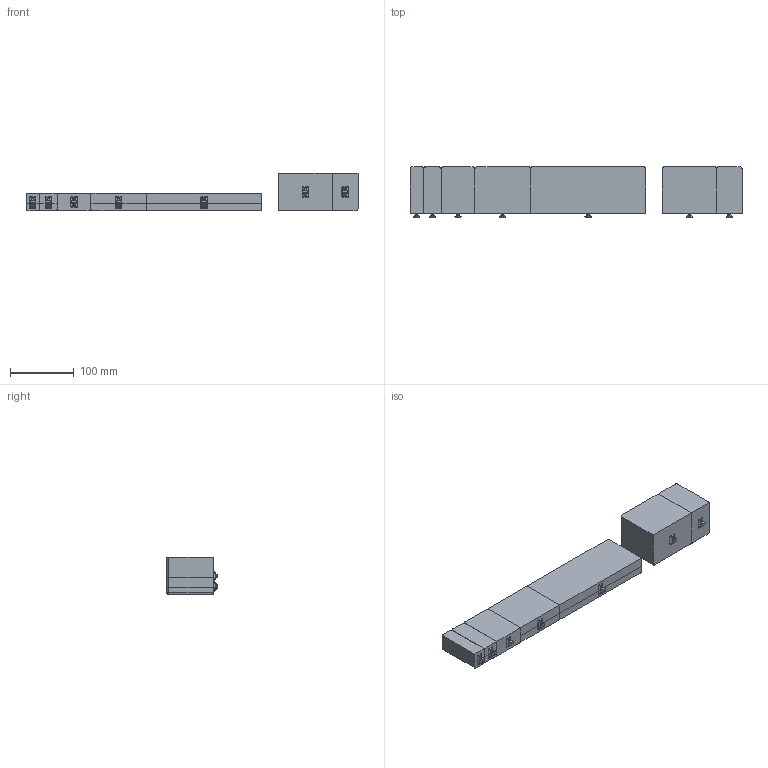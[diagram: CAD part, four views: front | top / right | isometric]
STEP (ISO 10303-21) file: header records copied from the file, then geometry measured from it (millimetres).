
FILE_DESCRIPTION(/* description */ ('STEP AP242','CAx-IF Rec.Pracs.---Representation and Presentation of Product Manufacturing Information (PMI)---4.0---2014-10-13','CAx-IF Rec.Pracs.---3D Tessellated Geometry---0.4---2014-09-14','2;1'),/* implementation_level */ '2;1');
FILE_NAME(/* name */ '6456463ca5ed027e9a81caa4',/* time_stamp */ '2023-05-06T12:21:18Z',/* author */ (''),/* organization */ (''),/* preprocessor_version */ 'ST-DEVELOPER v19.4',/* originating_system */ ' ',/* authorisation */ ' ');
FILE_SCHEMA (('AP242_MANAGED_MODEL_BASED_3D_ENGINEERING_MIM_LF { 1 0 10303 442 1 1 4 }'));
Length unit declared in the file: metre
Products named in the file (11): vase-LP-S; vase-M; vase-L; vase-XL; vase-XXL; vase-VM; vase-VS; vase-LP-M; vase-LP-XL; vase-LP-XXL; vase-S
Bounding box: 521.35 x 79 x 59.33 mm (x, y, z)
Volume: 1573126.3 mm3; surface area: 204084.7 mm2
Topology: 11 solids, 11 shells, 418 faces, 1059 edges, 648 vertices
Faces by surface type: cylinder 167, bspline 130, plane 99, sphere 22
Entity records: 17116 total; most frequent: CARTESIAN_POINT 7968, ORIENTED_EDGE 2074, DIRECTION 1533, EDGE_CURVE 1037, VERTEX_POINT 648, AXIS2_PLACEMENT_3D 569, EDGE_LOOP 425, FACE_BOUND 425
